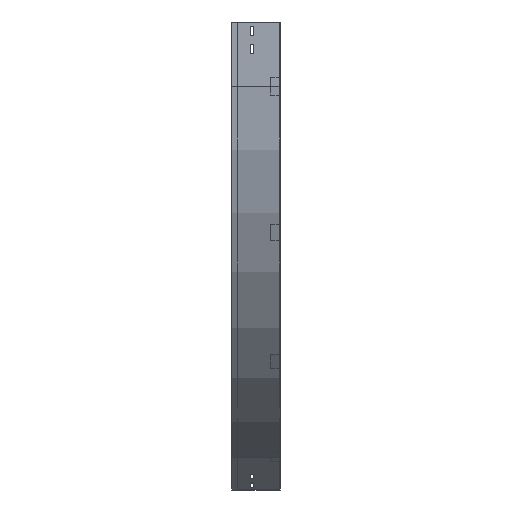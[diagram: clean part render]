
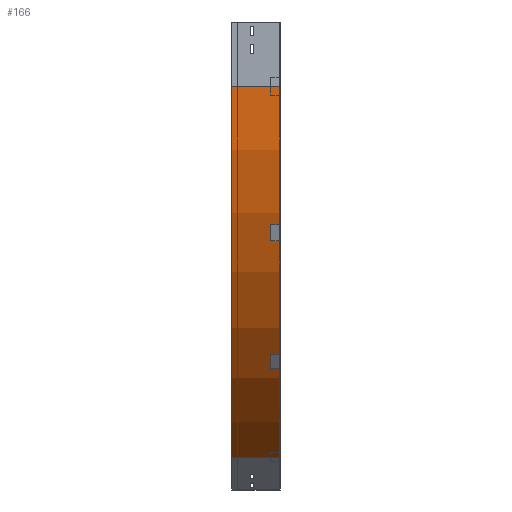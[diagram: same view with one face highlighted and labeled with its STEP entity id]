
A CAD part, left-side view. The second image highlights one B-rep face of the part: STEP entity #166.
In plain terms, the highlighted cylindrical face has radius 1000 mm (diameter 2000 mm), a partial arc.
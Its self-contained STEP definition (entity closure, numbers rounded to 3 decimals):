
#32 = AXIS2_PLACEMENT_3D ( 'NONE', #192, #3801, #1109 ) ;
#142 = EDGE_CURVE ( 'NONE', #3815, #900, #2668, .T. ) ;
#166 = ADVANCED_FACE ( 'NONE', ( #1992 ), #1654, .T. ) ;
#192 = CARTESIAN_POINT ( 'NONE',  ( 1000., 0., -150. ) ) ;
#272 = EDGE_CURVE ( 'NONE', #707, #900, #2697, .T. ) ;
#443 = CARTESIAN_POINT ( 'NONE',  ( 0., 112.5, -150. ) ) ;
#481 = CARTESIAN_POINT ( 'NONE',  ( 1000., 112.5, -150. ) ) ;
#534 = LINE ( 'NONE', #1483, #3574 ) ;
#681 = CARTESIAN_POINT ( 'NONE',  ( 0., 0., -150. ) ) ;
#707 = VERTEX_POINT ( 'NONE', #3025 ) ;
#900 = VERTEX_POINT ( 'NONE', #1313 ) ;
#988 = AXIS2_PLACEMENT_3D ( 'NONE', #1342, #2863, #2527 ) ;
#1100 = EDGE_LOOP ( 'NONE', ( #1119, #3781, #2345, #2992 ) ) ;
#1109 = DIRECTION ( 'NONE',  ( 0., 0., -1. ) ) ;
#1119 = ORIENTED_EDGE ( 'NONE', *, *, #142, .F. ) ;
#1286 = AXIS2_PLACEMENT_3D ( 'NONE', #481, #3718, #1948 ) ;
#1313 = CARTESIAN_POINT ( 'NONE',  ( 500., 0., -1016.025 ) ) ;
#1342 = CARTESIAN_POINT ( 'NONE',  ( 1000., 0., -150. ) ) ;
#1415 = EDGE_CURVE ( 'NONE', #2189, #707, #2960, .T. ) ;
#1448 = DIRECTION ( 'NONE',  ( 0., -1., 0. ) ) ;
#1473 = DIRECTION ( 'NONE',  ( 0., -1., 0. ) ) ;
#1483 = CARTESIAN_POINT ( 'NONE',  ( 0., 0., -150. ) ) ;
#1654 = CYLINDRICAL_SURFACE ( 'NONE', #32, 1000. ) ;
#1846 = EDGE_CURVE ( 'NONE', #2189, #3815, #534, .T. ) ;
#1948 = DIRECTION ( 'NONE',  ( -1., 0., 0. ) ) ;
#1992 = FACE_OUTER_BOUND ( 'NONE', #1100, .T. ) ;
#2189 = VERTEX_POINT ( 'NONE', #443 ) ;
#2345 = ORIENTED_EDGE ( 'NONE', *, *, #1415, .T. ) ;
#2527 = DIRECTION ( 'NONE',  ( -1., 0., 0. ) ) ;
#2625 = CARTESIAN_POINT ( 'NONE',  ( 500., 0., -1016.025 ) ) ;
#2668 = CIRCLE ( 'NONE', #988, 1000. ) ;
#2697 = LINE ( 'NONE', #2625, #3533 ) ;
#2863 = DIRECTION ( 'NONE',  ( 0., -1., 0. ) ) ;
#2960 = CIRCLE ( 'NONE', #1286, 1000. ) ;
#2992 = ORIENTED_EDGE ( 'NONE', *, *, #272, .T. ) ;
#3025 = CARTESIAN_POINT ( 'NONE',  ( 500., 112.5, -1016.025 ) ) ;
#3533 = VECTOR ( 'NONE', #1473, 1000. ) ;
#3574 = VECTOR ( 'NONE', #1448, 1000. ) ;
#3718 = DIRECTION ( 'NONE',  ( 0., -1., 0. ) ) ;
#3781 = ORIENTED_EDGE ( 'NONE', *, *, #1846, .F. ) ;
#3801 = DIRECTION ( 'NONE',  ( 0., -1., 0. ) ) ;
#3815 = VERTEX_POINT ( 'NONE', #681 ) ;
